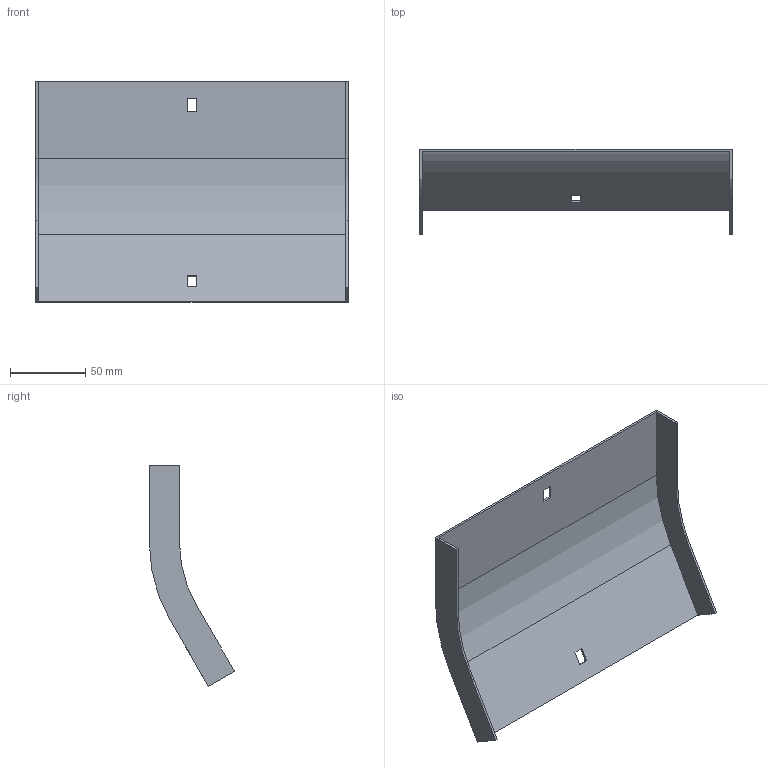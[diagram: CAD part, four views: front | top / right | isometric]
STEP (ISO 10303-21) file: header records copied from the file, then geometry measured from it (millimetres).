
FILE_DESCRIPTION (( 'STEP AP214' ), '1' );
FILE_NAME ('35G1C200.step', '2025-02-21T12:41:54', ( '' ), ( '' ), 'SwSTEP 2.0', 'SolidWorks 2023', '' );
FILE_SCHEMA (( 'AUTOMOTIVE_DESIGN' ));
Length unit declared in the file: millimetre
Products named in the file (1): 35G1C200
Bounding box: 207 x 56.52 x 146.29 mm (x, y, z)
Volume: 56319.7 mm3; surface area: 76354.4 mm2
Topology: 1 solids, 1 shells, 26 faces, 72 edges, 48 vertices
Faces by surface type: plane 22, cylinder 4
Entity records: 855 total; most frequent: CARTESIAN_POINT 147, ORIENTED_EDGE 144, DIRECTION 134, EDGE_CURVE 72, VECTOR 64, LINE 64, VERTEX_POINT 48, AXIS2_PLACEMENT_3D 35
